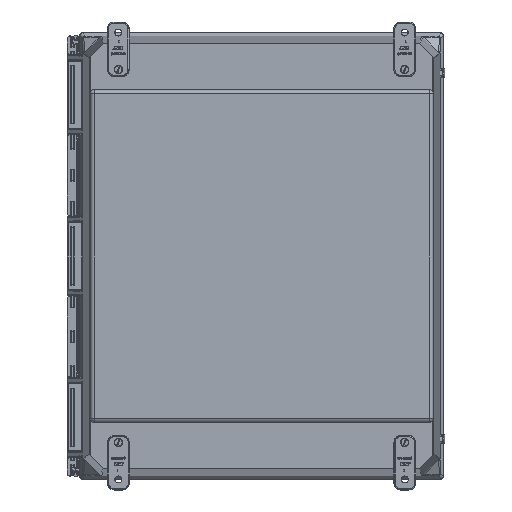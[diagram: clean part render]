
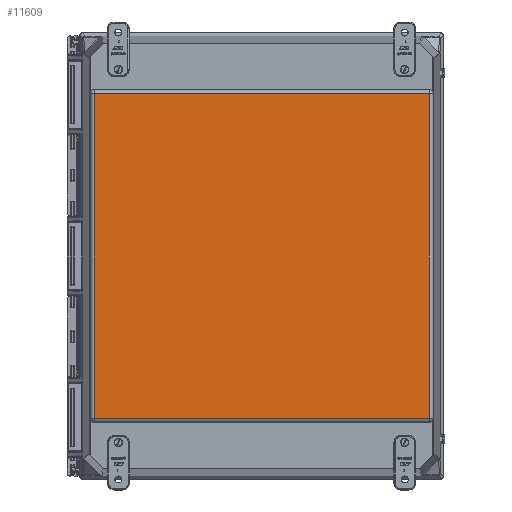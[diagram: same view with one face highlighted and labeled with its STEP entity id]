
A CAD part, front view. The second image highlights one B-rep face of the part: STEP entity #11609.
In plain terms, the highlighted planar face has unit normal (0, -1, 0).
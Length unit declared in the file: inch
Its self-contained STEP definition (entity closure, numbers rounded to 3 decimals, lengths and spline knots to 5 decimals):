
#3476 = FACE_OUTER_BOUND ( 'NONE', #18530, .T. ) ;
#3484 = LINE ( 'NONE', #73410, #22088 ) ;
#9676 = DIRECTION ( 'NONE',  ( 1., 0., 0. ) ) ;
#9827 = VERTEX_POINT ( 'NONE', #114291 ) ;
#10444 = VECTOR ( 'NONE', #16454, 39.37008 ) ;
#11463 = LINE ( 'NONE', #70834, #32833 ) ;
#11609 = ADVANCED_FACE ( 'NONE', ( #3476 ), #44115, .T. ) ;
#13499 = EDGE_CURVE ( 'NONE', #19918, #9827, #30273, .T. ) ;
#16262 = DIRECTION ( 'NONE',  ( 0., 0., 1. ) ) ;
#16454 = DIRECTION ( 'NONE',  ( 0., 0., -1. ) ) ;
#18530 = EDGE_LOOP ( 'NONE', ( #80658, #82168, #30043, #38020 ) ) ;
#19298 = CARTESIAN_POINT ( 'NONE',  ( 7.69528, -10.125, 7.44442 ) ) ;
#19918 = VERTEX_POINT ( 'NONE', #19298 ) ;
#22088 = VECTOR ( 'NONE', #9676, 39.37008 ) ;
#26215 = CARTESIAN_POINT ( 'NONE',  ( -8.36, -10.125, -10.25 ) ) ;
#30043 = ORIENTED_EDGE ( 'NONE', *, *, #115956, .T. ) ;
#30273 = LINE ( 'NONE', #91975, #75893 ) ;
#32833 = VECTOR ( 'NONE', #16262, 39.37008 ) ;
#38020 = ORIENTED_EDGE ( 'NONE', *, *, #64829, .T. ) ;
#40256 = VERTEX_POINT ( 'NONE', #112083 ) ;
#44115 = PLANE ( 'NONE',  #107073 ) ;
#46515 = DIRECTION ( 'NONE',  ( -1., 0., 0. ) ) ;
#53648 = DIRECTION ( 'NONE',  ( 0., -1., 0. ) ) ;
#58900 = LINE ( 'NONE', #115285, #10444 ) ;
#64829 = EDGE_CURVE ( 'NONE', #82229, #19918, #11463, .T. ) ;
#70834 = CARTESIAN_POINT ( 'NONE',  ( 7.69528, -10.125, 7.625 ) ) ;
#73410 = CARTESIAN_POINT ( 'NONE',  ( 7.87587, -10.125, -7.44442 ) ) ;
#75893 = VECTOR ( 'NONE', #46515, 39.37008 ) ;
#79950 = CARTESIAN_POINT ( 'NONE',  ( 7.69528, -10.125, -7.44442 ) ) ;
#80658 = ORIENTED_EDGE ( 'NONE', *, *, #13499, .T. ) ;
#82168 = ORIENTED_EDGE ( 'NONE', *, *, #110835, .T. ) ;
#82229 = VERTEX_POINT ( 'NONE', #79950 ) ;
#91975 = CARTESIAN_POINT ( 'NONE',  ( -7.87587, -10.125, 7.44442 ) ) ;
#107073 = AXIS2_PLACEMENT_3D ( 'NONE', #26215, #53648, #117446 ) ;
#110835 = EDGE_CURVE ( 'NONE', #9827, #40256, #58900, .T. ) ;
#112083 = CARTESIAN_POINT ( 'NONE',  ( -7.69528, -10.125, -7.44442 ) ) ;
#114291 = CARTESIAN_POINT ( 'NONE',  ( -7.69528, -10.125, 7.44442 ) ) ;
#115285 = CARTESIAN_POINT ( 'NONE',  ( -7.69528, -10.125, -7.625 ) ) ;
#115956 = EDGE_CURVE ( 'NONE', #40256, #82229, #3484, .T. ) ;
#117446 = DIRECTION ( 'NONE',  ( 0., 0., -1. ) ) ;
